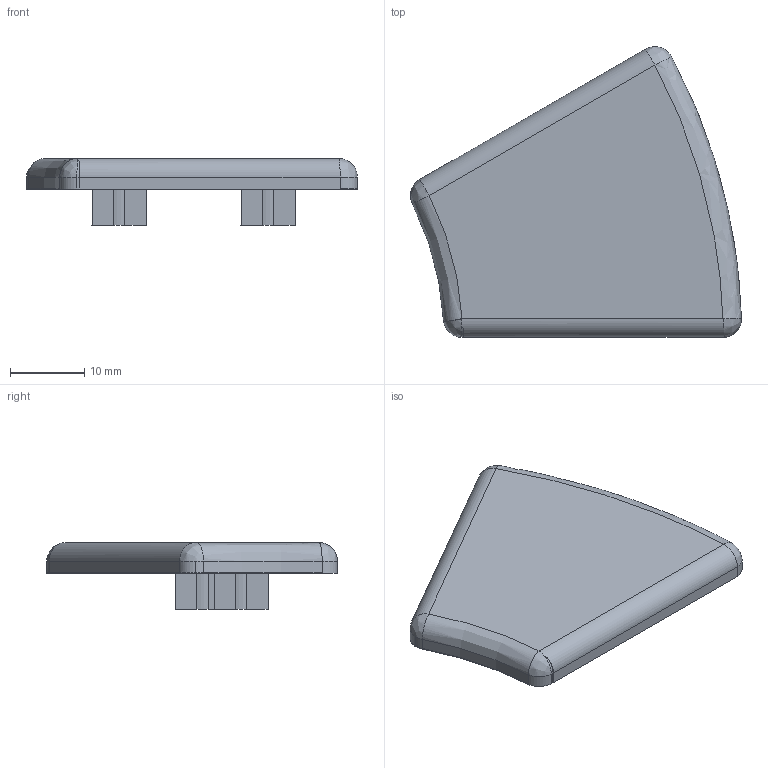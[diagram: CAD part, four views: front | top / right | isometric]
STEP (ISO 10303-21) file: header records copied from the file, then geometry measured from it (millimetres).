
FILE_DESCRIPTION (( 'STEP AP203' ), '1' );
FILE_NAME ('421043_Abdeckkappe 8 R40-80 - 30°.step', '2022-06-24T07:27:29', ( '' ), ( '' ), 'SwSTEP 2.0', 'SolidWorks 2021', '' );
FILE_SCHEMA (( 'CONFIG_CONTROL_DESIGN' ));
Length unit declared in the file: millimetre
Products named in the file (1): 421043_Abdeckkappe 8 R40-80 - 30°
Bounding box: 44.47 x 39.06 x 9 mm (x, y, z)
Volume: 5034.6 mm3; surface area: 3222.7 mm2
Topology: 1 solids, 1 shells, 69 faces, 182 edges, 114 vertices
Faces by surface type: cylinder 32, plane 30, bspline 7
Entity records: 2472 total; most frequent: CARTESIAN_POINT 741, ORIENTED_EDGE 358, DIRECTION 332, EDGE_CURVE 179, AXIS2_PLACEMENT_3D 115, VERTEX_POINT 115, VECTOR 102, LINE 102
